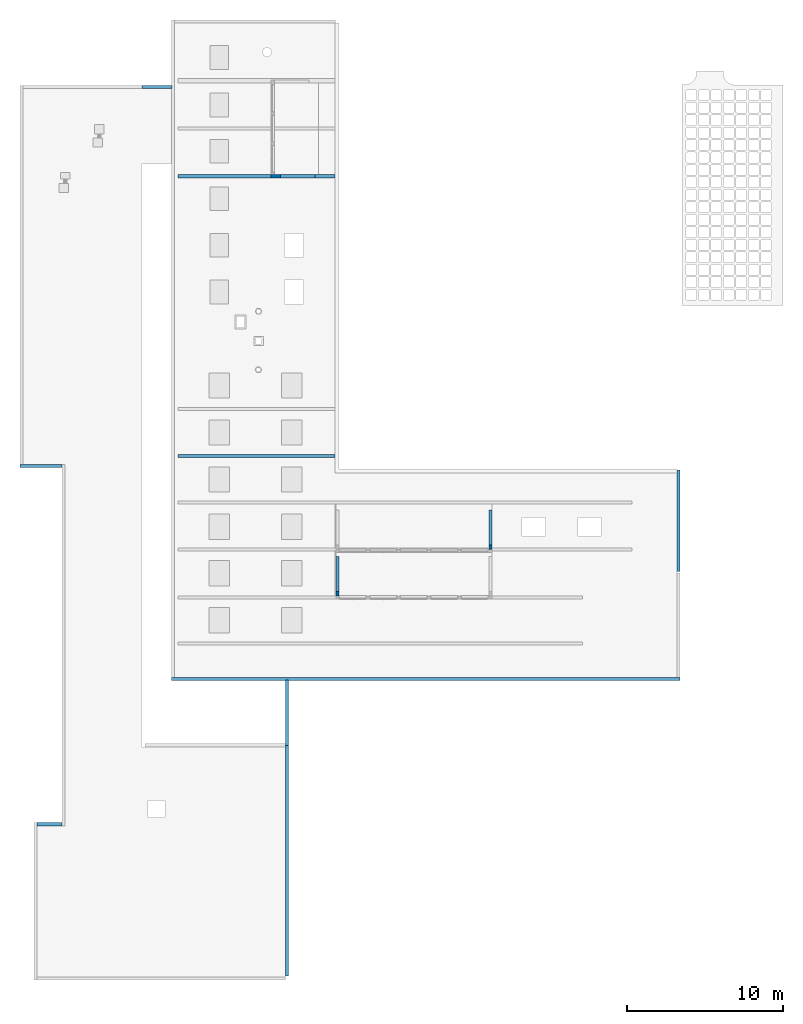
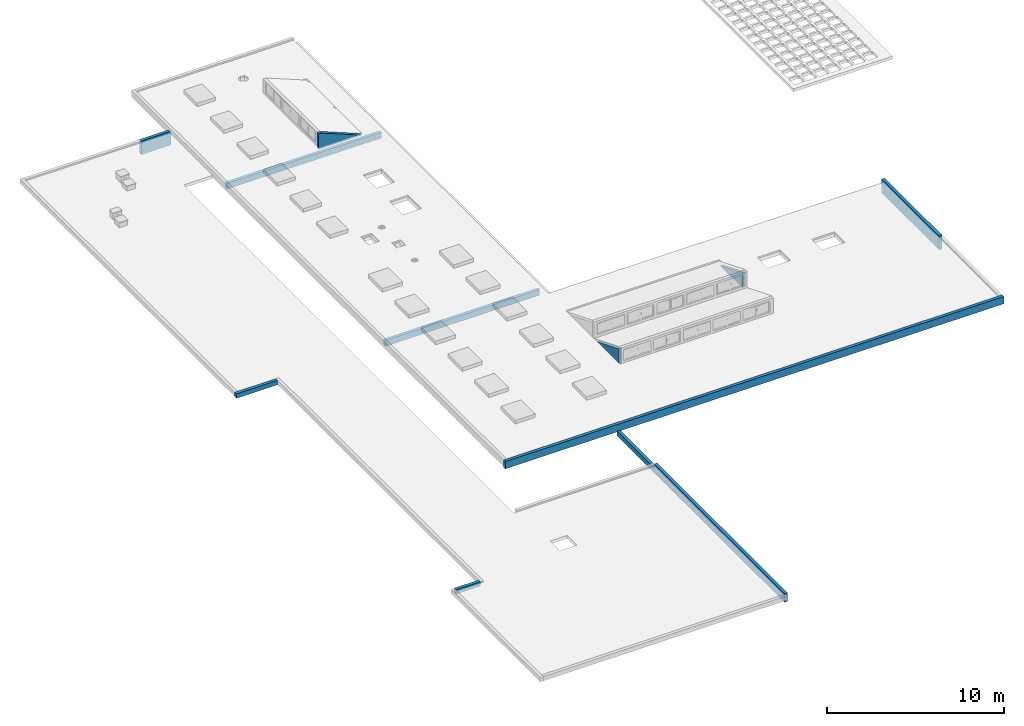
# One storey, part 1 of 4: 10 walls, 2 beams.
"""IFC2X3 building model written with IfcOpenShell, lengths in metres."""

from ifc_helpers import new_model, entity, si_unit, converted_unit, derived_unit, direction, frame, frame_2d, origin, place, context, subcontext, project, spatial, polyline, rectangle, extrude, clip, halfspace, bounded_halfspace, material, layer, layer_set, layer_usage, type_object, element, save


model = new_model("IFC2X3")

# Units and contexts
model_context = context("Model", 3, precision=1e-05, world=origin(), true_north=direction((6.12303176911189e-17, 1.0)))
body_context = subcontext(model_context, "Body", "Model", "MODEL_VIEW")
ifc_project = project(units=[si_unit("LENGTHUNIT", "METRE"), si_unit("AREAUNIT", "SQUARE_METRE"), si_unit("VOLUMEUNIT", "CUBIC_METRE"), converted_unit("PLANEANGLEUNIT", "DEGREE", entity("IfcRatioMeasure", 0.0174532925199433), si_unit("PLANEANGLEUNIT", "RADIAN"), dimensions=[0, 0, 0, 0, 0, 0, 0]), si_unit("MASSUNIT", "GRAM", prefix="KILO"), derived_unit("MASSDENSITYUNIT", [(si_unit("MASSUNIT", "GRAM", prefix="KILO"), 1), (si_unit("LENGTHUNIT", "METRE"), -3)]), derived_unit("MOMENTOFINERTIAUNIT", [(si_unit("LENGTHUNIT", "METRE"), 4)]), si_unit("TIMEUNIT", "SECOND"), si_unit("FREQUENCYUNIT", "HERTZ"), si_unit("THERMODYNAMICTEMPERATUREUNIT", "DEGREE_CELSIUS"), derived_unit("THERMALTRANSMITTANCEUNIT", [(si_unit("MASSUNIT", "GRAM", prefix="KILO"), 1), (si_unit("THERMODYNAMICTEMPERATUREUNIT", "KELVIN"), -1), (si_unit("TIMEUNIT", "SECOND"), -3)]), derived_unit("VOLUMETRICFLOWRATEUNIT", [(si_unit("LENGTHUNIT", "METRE"), 3), (si_unit("TIMEUNIT", "SECOND"), -1)]), si_unit("ELECTRICCURRENTUNIT", "AMPERE"), si_unit("ELECTRICVOLTAGEUNIT", "VOLT"), si_unit("POWERUNIT", "WATT"), si_unit("FORCEUNIT", "NEWTON", prefix="KILO"), si_unit("ILLUMINANCEUNIT", "LUX"), si_unit("LUMINOUSFLUXUNIT", "LUMEN"), si_unit("LUMINOUSINTENSITYUNIT", "CANDELA"), derived_unit("USERDEFINED", [(si_unit("MASSUNIT", "GRAM", prefix="KILO"), -1), (si_unit("LENGTHUNIT", "METRE"), -2), (si_unit("TIMEUNIT", "SECOND"), 3), (si_unit("LUMINOUSFLUXUNIT", "LUMEN"), 1)]), derived_unit("LINEARVELOCITYUNIT", [(si_unit("LENGTHUNIT", "METRE"), 1), (si_unit("TIMEUNIT", "SECOND"), -1)]), si_unit("PRESSUREUNIT", "PASCAL"), derived_unit("USERDEFINED", [(si_unit("LENGTHUNIT", "METRE"), -2), (si_unit("MASSUNIT", "GRAM", prefix="KILO"), 1), (si_unit("TIMEUNIT", "SECOND"), -2)]), derived_unit("LINEARFORCEUNIT", [(si_unit("MASSUNIT", "GRAM", prefix="KILO"), 1), (si_unit("LENGTHUNIT", "METRE"), 1), (si_unit("TIMEUNIT", "SECOND"), -2), (si_unit("LENGTHUNIT", "METRE"), -1)]), derived_unit("PLANARFORCEUNIT", [(si_unit("MASSUNIT", "GRAM", prefix="KILO"), 1), (si_unit("LENGTHUNIT", "METRE"), 1), (si_unit("TIMEUNIT", "SECOND"), -2), (si_unit("LENGTHUNIT", "METRE"), -2)])], contexts=[model_context])

# Site, building, storey
site_placement = place(None, origin())
site = spatial("IfcSite", under=ifc_project, at=site_placement, Name="Default", CompositionType="ELEMENT")
building_placement = place(site_placement, origin())
building = spatial("IfcBuilding", under=site, at=building_placement, CompositionType="ELEMENT")
storey_placement = place(building_placement, frame((0.0, 0.0, 3.95330827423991)))
storey = spatial("IfcBuildingStorey", under=building, at=storey_placement, Name="Niveau 1 - 01", CompositionType="ELEMENT", Elevation=3.95330827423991)

# Beams
ifc_material_1 = material(Name="Béton, coulé sur place gris")
beam_type = type_object("IfcBeamType", Name="M_Béton-Poutre rectangulaire T2:20x65h", PredefinedType="NOTDEFINED")
beam_1_placement = place(storey_placement, frame((-35.9189891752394, -20.1085714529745, 0.0)))
element("IfcBeam", 1, at=beam_1_placement, inside=storey, type_object=beam_type, material=ifc_material_1, Name="M_Béton-Poutre rectangulaire T2:20x65h", ObjectType="M_Béton-Poutre rectangulaire T2:20x65h", context=body_context, shape_type="SweptSolid", body=[
    extrude(rectangle(XDim=0.400000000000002, YDim=0.200000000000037, at=frame_2d((2.63677968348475e-16, 6.49480469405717e-15), x_axis=(1.0, 0.0))), frame((0.0, 0.0, -0.450000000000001), z_axis=(1.0, 0.0, 0.0), x_axis=(0.0, 0.0, -1.0)), (0.0, 0.0, 1.0), 10.0750000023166),
])
beam_2_placement = place(storey_placement, frame((-35.9189891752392, -2.1928229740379, 0.0)))
element("IfcBeam", 2, at=beam_2_placement, inside=storey, type_object=beam_type, material=ifc_material_1, Name="M_Béton-Poutre rectangulaire T2:20x65h", ObjectType="M_Béton-Poutre rectangulaire T2:20x65h", context=body_context, shape_type="SweptSolid", body=[
    extrude(rectangle(XDim=0.400000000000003, YDim=0.200000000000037, at=frame_2d((-2.63677968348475e-16, 7.57727214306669e-15), x_axis=(1.0, 0.0))), frame((0.0, 0.0, -0.45), z_axis=(1.0, 0.0, 0.0), x_axis=(0.0, 0.0, -1.0)), (0.0, 0.0, 1.0), 10.0750000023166),
])

# Walls
ifc_material_2 = material(Name="Maçonnerie - Voile BA")
ifc_layer = layer(ifc_material_2, 0.2)
ifc_layer_set = layer_set([ifc_layer], Name="Mur de base:Ext. Voile BA 200")
ifc_layer_usage_1 = layer_usage(ifc_layer_set, "AXIS2", "NEGATIVE", 0.1)
wall_type = type_object("IfcWallType", Name="Mur de base:Ext. Voile BA 200", PredefinedType="STANDARD", material=ifc_layer_set)
wall_1_placement = place(storey_placement, frame((-25.6939891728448, -26.5682235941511, 0.0), z_axis=(0.0, 0.0, 1.0), x_axis=(0.0, -1.0, 0.0)))
element("IfcWallStandardCase", 3, at=wall_1_placement, inside=storey, type_object=wall_type, material=ifc_layer_usage_1, Name="Mur de base:Ext. Voile BA 200", ObjectType="Mur de base:Ext. Voile BA 200", context=body_context, shape_type="Clipping", body=[
    clip(extrude(rectangle(XDim=2.5203478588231, YDim=0.199999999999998, at=frame_2d((1.26017392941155, 0.0), x_axis=(-1.0, 0.0))), origin(), (0.0, 0.0, 1.0), 1.01828663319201), bounded_halfspace(frame((0.0, -0.100000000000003, 0.0), z_axis=(0.374606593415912, 0.0, -0.927183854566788), x_axis=(0.927183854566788, 0.0, 0.374606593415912)), True, frame((0.0, -0.100000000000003, 0.0), z_axis=(0.374606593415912, 0.0, -0.927183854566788), x_axis=(0.927183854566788, 0.0, 0.374606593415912)), polyline([(0.0, 0.0), (0.0, -0.200000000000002), (2.71828272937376, -0.200000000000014), (2.71828272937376, 0.0), (0.0, 0.0)]))),
])
ifc_layer_usage_2 = layer_usage(ifc_layer_set, "AXIS2", "NEGATIVE", 0.1)
wall_2_placement = place(storey_placement, frame((-15.8976697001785, -26.0985714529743, 0.0), z_axis=(0.0, 0.0, 1.0), x_axis=(0.0, 1.0, 0.0)))
element("IfcWallStandardCase", 4, at=wall_2_placement, inside=storey, type_object=wall_type, material=ifc_layer_usage_2, Name="Mur de base:Ext. Voile BA 200", ObjectType="Mur de base:Ext. Voile BA 200", context=body_context, shape_type="Clipping", body=[
    clip(extrude(rectangle(XDim=2.52034785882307, YDim=0.199999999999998, at=frame_2d((1.26017392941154, -9.71445146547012e-16), x_axis=(-1.0, 0.0))), origin(), (0.0, 0.0, 1.0), 1.018286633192), bounded_halfspace(frame((0.0, -0.100000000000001, 1.018286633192), z_axis=(-0.374606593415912, 0.0, -0.927183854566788), x_axis=(-0.927183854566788, 0.0, 0.374606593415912)), True, frame((0.0, -0.100000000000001, 1.018286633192), z_axis=(-0.374606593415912, 0.0, -0.927183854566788), x_axis=(-0.927183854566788, 0.0, 0.374606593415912)), polyline([(0.0, 0.0), (0.0, 0.2), (-2.71828272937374, 0.200000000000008), (-2.71828272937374, 0.0), (0.0, 0.0)]))),
])
ifc_layer_usage_3 = layer_usage(ifc_layer_set, "AXIS2", "NEGATIVE", 0.1)
wall_3_placement = place(storey_placement, frame((-29.9435797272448, -2.19282297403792, 0.0)))
element("IfcWallStandardCase", 5, at=wall_3_placement, inside=storey, type_object=wall_type, material=ifc_layer_usage_3, Name="Mur de base:Ext. Voile BA 200", ObjectType="Mur de base:Ext. Voile BA 200", context=body_context, shape_type="Clipping", body=[
    clip(extrude(rectangle(XDim=2.82375751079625, YDim=0.2, at=frame_2d((1.41187875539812, 0.0), x_axis=(-1.0, 0.0))), origin(), (0.0, 0.0, 1.0), 1.06944067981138), halfspace(frame((0.176798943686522, -0.1, 1.06944067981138), z_axis=(0.374606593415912, 0.0, 0.927183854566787), x_axis=(0.0, 1.0, 0.0)), False)),
])
ifc_layer_usage_4 = layer_usage(ifc_layer_set, "AXIS2", "NEGATIVE", 0.1)
wall_4_placement = place(storey_placement, frame((-28.9230967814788, -53.7011523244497, -0.60143551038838), z_axis=(0.0, 0.0, 1.0), x_axis=(0.0, 1.0, 0.0)))
element("IfcWallStandardCase", 6, at=wall_4_placement, inside=storey, type_object=wall_type, material=ifc_layer_usage_4, Name="Mur de base:Ext. Voile BA 200", ObjectType="Mur de base:Ext. Voile BA 200", context=body_context, shape_type="SweptSolid", body=[
    extrude(rectangle(XDim=14.7920980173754, YDim=0.199999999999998, at=frame_2d((7.6460490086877, -5.34294830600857e-16), x_axis=(-1.0, 0.0))), origin(), (0.0, 0.0, 1.0), 0.60143551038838),
])
ifc_layer_usage_5 = layer_usage(ifc_layer_set, "AXIS2", "NEGATIVE", 0.1)
wall_5_placement = place(storey_placement, frame((-44.9417005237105, -43.7171378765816, -0.301435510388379)))
element("IfcWallStandardCase", 7, at=wall_5_placement, inside=storey, type_object=wall_type, material=ifc_layer_usage_5, Name="Mur de base:Ext. Voile BA 200", ObjectType="Mur de base:Ext. Voile BA 200", context=body_context, shape_type="SweptSolid", body=[
    extrude(rectangle(XDim=1.59880031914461, YDim=0.200000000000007, at=frame_2d((0.799400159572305, -1.71390679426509e-15), x_axis=(-1.0, 0.0))), origin(), (0.0, 0.0, 1.0), 0.301435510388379),
])
ifc_layer_usage_6 = layer_usage(ifc_layer_set, "AXIS2", "NEGATIVE", 0.1)
wall_6_placement = place(storey_placement, frame((-46.0392374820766, -20.7666974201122, -0.301435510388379)))
element("IfcWallStandardCase", 8, at=wall_6_placement, inside=storey, type_object=wall_type, material=ifc_layer_usage_6, Name="Mur de base:Ext. Voile BA 200", ObjectType="Mur de base:Ext. Voile BA 200", context=body_context, shape_type="SweptSolid", body=[
    extrude(rectangle(XDim=2.69633727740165, YDim=0.199999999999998, at=frame_2d((1.34816863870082, -4.9960036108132e-16), x_axis=(-1.0, 0.0))), origin(), (0.0, 0.0, 1.0), 0.301435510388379),
])
ifc_layer_usage_7 = layer_usage(ifc_layer_set, "AXIS2", "NEGATIVE", 0.1)
wall_7_placement = place(storey_placement, frame((-28.9230967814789, -38.6590543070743, -0.60143551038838), z_axis=(0.0, 0.0, 1.0), x_axis=(0.0, 1.0, 0.0)))
element("IfcWallStandardCase", 9, at=wall_7_placement, inside=storey, type_object=wall_type, material=ifc_layer_usage_7, Name="Mur de base:Ext. Voile BA 200", ObjectType="Mur de base:Ext. Voile BA 200", context=body_context, shape_type="SweptSolid", body=[
    extrude(rectangle(XDim=4.2, YDim=0.200000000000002, at=frame_2d((2.1, -2.57432963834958e-15), x_axis=(-1.0, 0.0))), origin(), (0.0, 0.0, 1.0), 0.351435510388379),
])
ifc_layer_usage_8 = layer_usage(ifc_layer_set, "AXIS2", "NEGATIVE", 0.1)
wall_8_placement = place(storey_placement, frame((-36.3439891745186, -34.4090543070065, -0.3)))
element("IfcWallStandardCase", 10, at=wall_8_placement, inside=storey, type_object=wall_type, material=ifc_layer_usage_8, Name="Mur de base:Ext. Voile BA 200", ObjectType="Mur de base:Ext. Voile BA 200", context=body_context, shape_type="SweptSolid", body=[
    extrude(rectangle(XDim=32.598040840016, YDim=0.199999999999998, at=frame_2d((16.299020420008, 1.08246744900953e-15), x_axis=(-1.0, 0.0))), origin(), (0.0, 0.0, 1.0), 0.502007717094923),
])
ifc_layer_usage_9 = layer_usage(ifc_layer_set, "AXIS2", "NEGATIVE", 0.1)
wall_9_placement = place(storey_placement, frame((-38.2239891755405, 3.53464450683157, -0.944366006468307)))
element("IfcWallStandardCase", 11, at=wall_9_placement, inside=storey, type_object=wall_type, material=ifc_layer_usage_9, Name="Mur de base:Ext. Voile BA 200", ObjectType="Mur de base:Ext. Voile BA 200", context=body_context, shape_type="SweptSolid", body=[
    extrude(rectangle(XDim=1.92999999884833, YDim=0.2, at=frame_2d((0.964999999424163, 1.17961196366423e-16), x_axis=(-1.0, 0.0))), origin(), (0.0, 0.0, 1.0), 0.944366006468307),
])
ifc_layer_usage_10 = layer_usage(ifc_layer_set, "AXIS2", "NEGATIVE", 0.1)
wall_10_placement = place(storey_placement, frame((-3.84594833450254, -27.6175199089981, -0.753308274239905), z_axis=(0.0, 0.0, 1.0), x_axis=(0.0, 1.0, 0.0)))
element("IfcWallStandardCase", 12, at=wall_10_placement, inside=storey, type_object=wall_type, material=ifc_layer_usage_10, Name="Mur de base:Ext. Voile BA 200", ObjectType="Mur de base:Ext. Voile BA 200", context=body_context, shape_type="SweptSolid", body=[
    extrude(rectangle(XDim=6.51126683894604, YDim=0.2, at=frame_2d((3.35563341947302, 8.32667268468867e-17), x_axis=(-1.0, 0.0))), origin(), (0.0, 0.0, 1.0), 0.955315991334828),
])

save(model, "model.ifc")
